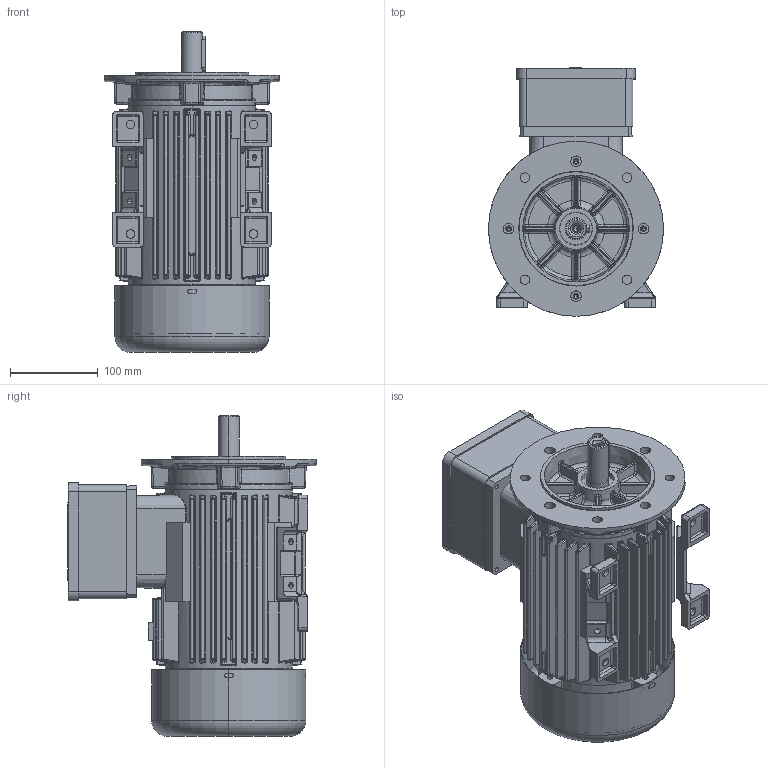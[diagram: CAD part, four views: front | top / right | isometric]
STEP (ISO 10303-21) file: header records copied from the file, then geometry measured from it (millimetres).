
FILE_DESCRIPTION (( 'STEP AP203' ), '1' );
FILE_NAME ('20.18453-E 7AT 90 B35 Exde STANDK.STEP', '2018-06-07T10:54:55', ( '' ), ( '' ), 'SwSTEP 2.0', 'SolidWorks 2017', '' );
FILE_SCHEMA (( 'CONFIG_CONTROL_DESIGN' ));
Length unit declared in the file: millimetre
Products named in the file (1): 20.18453-E 7AT 90 B35 Exde STANDK
Bounding box: 199.9 x 283.75 x 366 mm (x, y, z)
Volume: 2834787.2 mm3; surface area: 940452.4 mm2
Topology: 13 solids, 13 shells, 3474 faces, 8383 edges, 4963 vertices
Faces by surface type: plane 1165, cylinder 997, bspline 903, torus 233, cone 114, sphere 62
Entity records: 137545 total; most frequent: CARTESIAN_POINT 64368, ORIENTED_EDGE 16342, DIRECTION 13748, EDGE_CURVE 8171, AXIS2_PLACEMENT_3D 5114, VERTEX_POINT 4961, EDGE_LOOP 3812, LINE 3520
